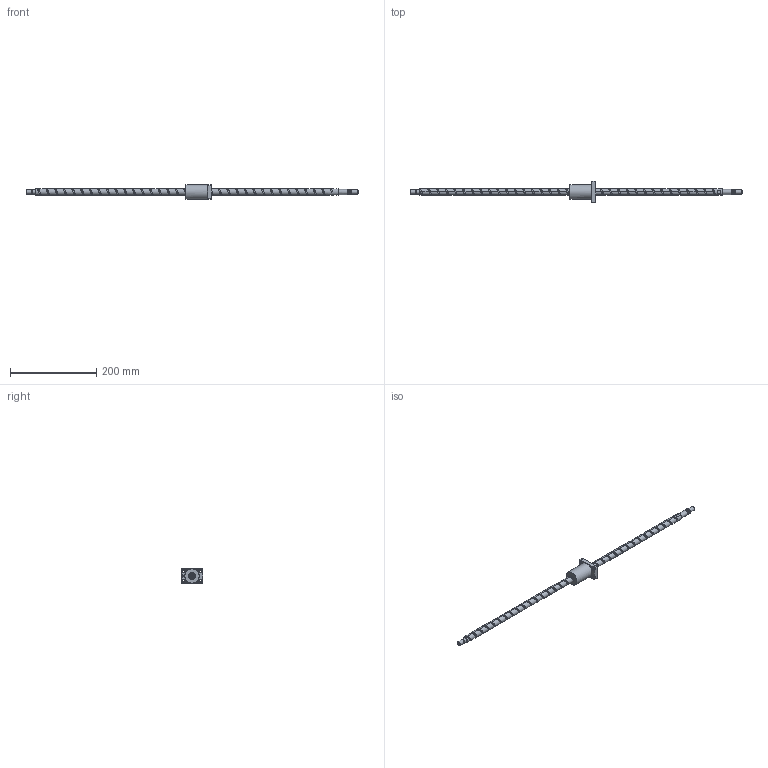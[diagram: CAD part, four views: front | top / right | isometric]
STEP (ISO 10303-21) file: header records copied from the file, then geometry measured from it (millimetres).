
FILE_DESCRIPTION (( 'STEP AP203' ), '1' );
FILE_NAME ('XSVR01520A1DGC5-771-P1.step', '2024-06-03T05:37:29', ( '' ), ( '' ), 'SwSTEP 2.0', 'SolidWorks 2022', '' );
FILE_SCHEMA (( 'CONFIG_CONTROL_DESIGN' ));
Length unit declared in the file: millimetre
Products named in the file (1): XSVR01520A1DGC5-771-P1
Bounding box: 771 x 50 x 34 mm (x, y, z)
Volume: 171341.3 mm3; surface area: 51735.3 mm2
Topology: 2 solids, 2 shells, 165 faces, 449 edges, 294 vertices
Faces by surface type: cylinder 88, plane 43, cone 15, bspline 10, torus 9
Full cylindrical faces by diameter (mm): 4 x1, 4.2 x15, 5 x6, 5.5 x4, 9.5 x4, 9.6 x1, 10 x3, 12 x9, 15 x35, 17 x1, 34 x1
Entity records: 20850 total; most frequent: CARTESIAN_POINT 18722, ORIENTED_EDGE 410, DIRECTION 391, EDGE_CURVE 205, AXIS2_PLACEMENT_3D 168, EDGE_LOOP 153, VERTEX_POINT 150, FACE_OUTER_BOUND 120
